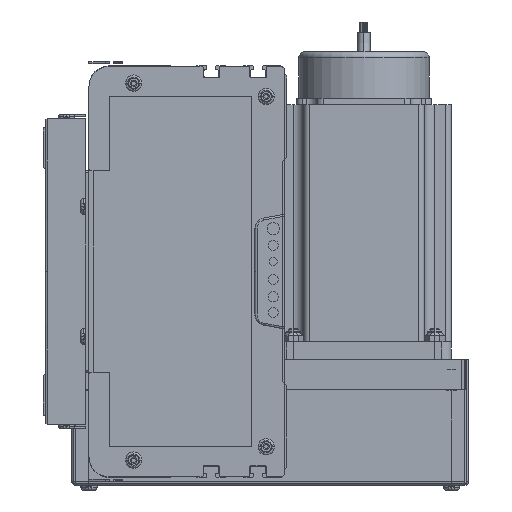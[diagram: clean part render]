
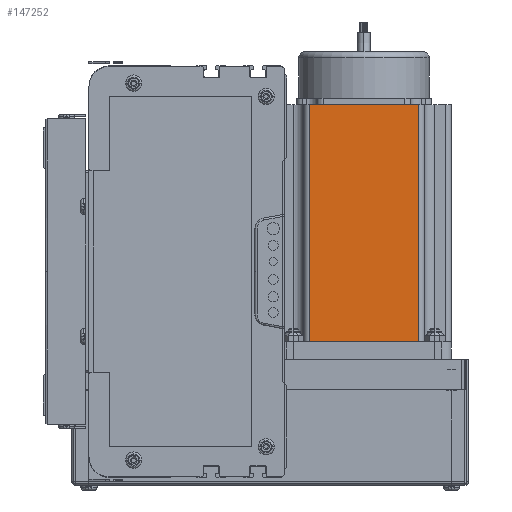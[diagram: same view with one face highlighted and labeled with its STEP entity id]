
A CAD part, left-side view. The second image highlights one B-rep face of the part: STEP entity #147252.
In plain terms, the highlighted planar face has unit normal (-1, 0, 0) as drawn and (0, -1, 0) by its records, which use the part's own axes.
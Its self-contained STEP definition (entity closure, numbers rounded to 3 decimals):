
#77296 = ORIENTED_EDGE ( 'NONE', *, *, #147354, .T. ) ;
#86013 = CARTESIAN_POINT ( 'NONE',  ( 69.74, 0., 0. ) ) ;
#86242 = CARTESIAN_POINT ( 'NONE',  ( 16.16, 0., 116.5 ) ) ;
#86246 = CARTESIAN_POINT ( 'NONE',  ( 69.74, 0., 116.5 ) ) ;
#86326 = FACE_OUTER_BOUND ( 'NONE', #147227, .T. ) ;
#86327 = AXIS2_PLACEMENT_3D ( 'NONE', #86339, #86362, #86353 ) ;
#86339 = CARTESIAN_POINT ( 'NONE',  ( 0., 0., 116.5 ) ) ;
#86352 = CARTESIAN_POINT ( 'NONE',  ( 16.16, 0., 0. ) ) ;
#86353 = DIRECTION ( 'NONE',  ( 0., 0., 1. ) ) ;
#86356 = PLANE ( 'NONE',  #86327 ) ;
#86362 = DIRECTION ( 'NONE',  ( 0., 1., 0. ) ) ;
#86427 = DIRECTION ( 'NONE',  ( 1., 0., 0. ) ) ;
#86428 = VECTOR ( 'NONE', #86427, 1000. ) ;
#86429 = CARTESIAN_POINT ( 'NONE',  ( 0., 0., 116.5 ) ) ;
#86433 = LINE ( 'NONE', #86429, #86428 ) ;
#86438 = DIRECTION ( 'NONE',  ( 1., 0., 0. ) ) ;
#86439 = VECTOR ( 'NONE', #86438, 1000. ) ;
#86440 = CARTESIAN_POINT ( 'NONE',  ( 0., 0., 0. ) ) ;
#86441 = LINE ( 'NONE', #86440, #86439 ) ;
#86448 = DIRECTION ( 'NONE',  ( 0., 0., 1. ) ) ;
#86449 = VECTOR ( 'NONE', #86448, 1000. ) ;
#86450 = CARTESIAN_POINT ( 'NONE',  ( 69.74, 0., 116.5 ) ) ;
#86451 = LINE ( 'NONE', #86450, #86449 ) ;
#86489 = DIRECTION ( 'NONE',  ( 0., 0., -1. ) ) ;
#86490 = VECTOR ( 'NONE', #86489, 1000. ) ;
#86491 = CARTESIAN_POINT ( 'NONE',  ( 16.16, 0., 116.5 ) ) ;
#86495 = LINE ( 'NONE', #86491, #86490 ) ;
#147093 = VERTEX_POINT ( 'NONE', #86013 ) ;
#147167 = VERTEX_POINT ( 'NONE', #86246 ) ;
#147169 = VERTEX_POINT ( 'NONE', #86242 ) ;
#147227 = EDGE_LOOP ( 'NONE', ( #147378, #77296, #147264, #147357 ) ) ;
#147252 = ADVANCED_FACE ( 'NONE', ( #86326 ), #86356, .F. ) ;
#147255 = VERTEX_POINT ( 'NONE', #86352 ) ;
#147264 = ORIENTED_EDGE ( 'NONE', *, *, #147361, .F. ) ;
#147354 = EDGE_CURVE ( 'NONE', #147093, #147167, #86451, .T. ) ;
#147356 = EDGE_CURVE ( 'NONE', #147255, #147093, #86441, .T. ) ;
#147357 = ORIENTED_EDGE ( 'NONE', *, *, #147364, .T. ) ;
#147361 = EDGE_CURVE ( 'NONE', #147169, #147167, #86433, .T. ) ;
#147364 = EDGE_CURVE ( 'NONE', #147169, #147255, #86495, .T. ) ;
#147378 = ORIENTED_EDGE ( 'NONE', *, *, #147356, .T. ) ;
